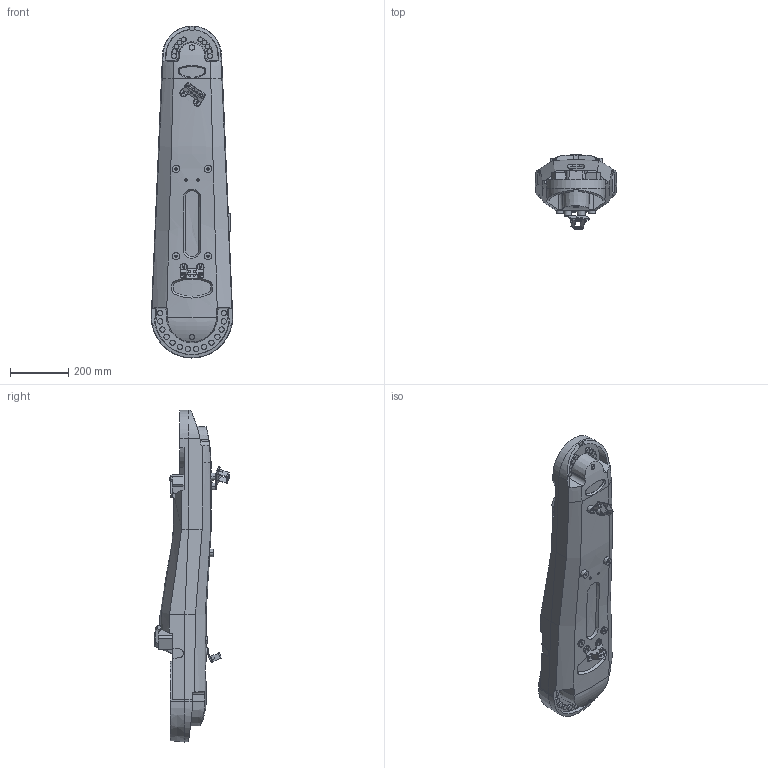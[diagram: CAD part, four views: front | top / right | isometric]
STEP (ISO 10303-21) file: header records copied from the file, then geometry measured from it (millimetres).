
FILE_DESCRIPTION (( 'STEP AP214' ), '1' );
FILE_NAME ('IRB4600_45kg-205_LINK2_CAD_rev04.STEP', '2016-12-06T10:31:45', ( 'ABB' ), ( 'ABB' ), 'SwSTEP 2.0', 'SolidWorks 2014', '' );
FILE_SCHEMA (( 'AUTOMOTIVE_DESIGN' ));
Length unit declared in the file: millimetre
Products named in the file (1): IRB4600_45kg-205_LINK2_CAD_rev04
Bounding box: 280 x 256.21 x 1141.5 mm (x, y, z)
Volume: 28079245.8 mm3; surface area: 916093.3 mm2
Topology: 1 solids, 1 shells, 714 faces, 1774 edges, 1119 vertices
Faces by surface type: plane 317, cylinder 229, cone 88, bspline 74, sphere 4, torus 2
Entity records: 31077 total; most frequent: CARTESIAN_POINT 14556, ORIENTED_EDGE 3536, DIRECTION 3220, EDGE_CURVE 1768, AXIS2_PLACEMENT_3D 1162, VERTEX_POINT 1119, LINE 896, VECTOR 896
